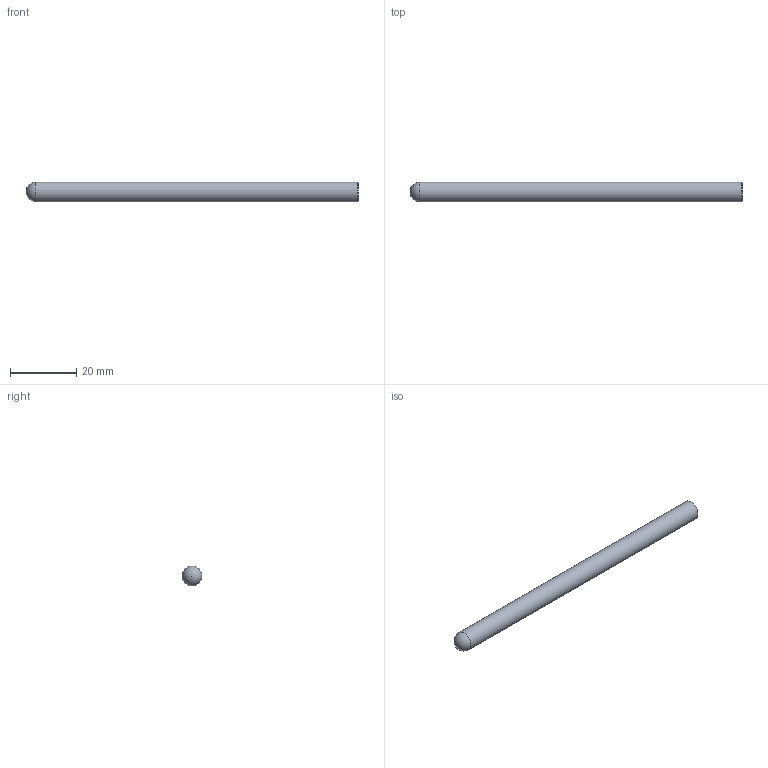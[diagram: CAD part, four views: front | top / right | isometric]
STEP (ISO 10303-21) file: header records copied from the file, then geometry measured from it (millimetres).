
FILE_DESCRIPTION(/* description */ (''),/* implementation_level */ '2;1');
FILE_NAME(/* name */ 'HSXB2060 06100.stp',/* time_stamp */ '2026-08-01T17:16:12+08:00',/* author */ (''),/* organization */ (''),/* preprocessor_version */ 'ST-DEVELOPER v16',/* originating_system */ 'SIEMENS PLM Software NX 10.0',/* authorisation */ '');
FILE_SCHEMA (('CONFIG_CONTROL_DESIGN'));
Length unit declared in the file: millimetre
Products named in the file (1): HSXB2060 06100_dxf
Bounding box: 100 x 6 x 6 mm (x, y, z)
Volume: 2798.3 mm3; surface area: 1909.8 mm2
Topology: 1 solids, 1 shells, 4 faces, 8 edges, 5 vertices
Faces by surface type: plane 1, sphere 1, cylinder 1, cone 1
Full cylindrical faces by diameter (mm): 6 x1
Entity records: 158 total; most frequent: DIRECTION 16, CARTESIAN_POINT 11, AXIS2_PLACEMENT_3D 8, PERSON_AND_ORGANIZATION 7, ORGANIZATION 7, EDGE_LOOP 6, ORIENTED_EDGE 6, DATE_AND_TIME 5
